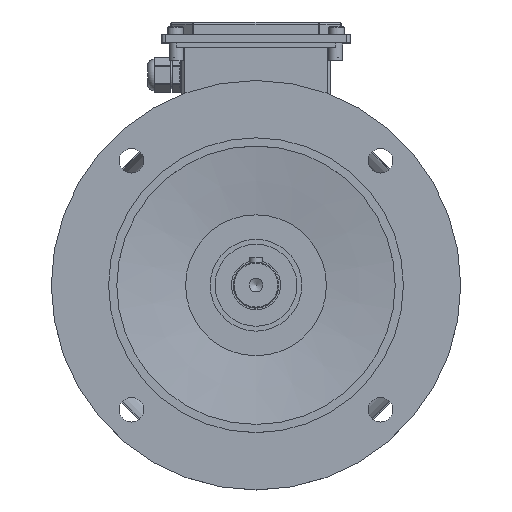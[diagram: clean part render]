
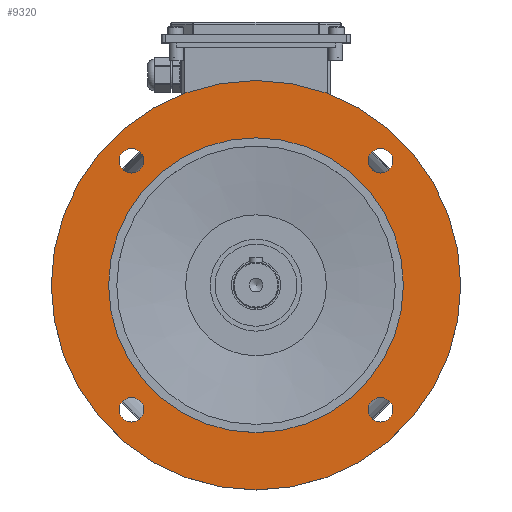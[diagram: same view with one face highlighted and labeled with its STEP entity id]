
A CAD part, top view. The second image highlights one B-rep face of the part: STEP entity #9320.
In plain terms, the highlighted planar face has unit normal (0, 0, 1).
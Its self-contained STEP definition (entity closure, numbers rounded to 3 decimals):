
#1832=FACE_BOUND('',#3121,.T.);
#1833=FACE_BOUND('',#3122,.T.);
#1834=FACE_BOUND('',#3123,.T.);
#1835=FACE_BOUND('',#3124,.T.);
#1836=FACE_BOUND('',#3125,.T.);
#1837=FACE_BOUND('',#3126,.T.);
#3121=EDGE_LOOP('',(#8370));
#3122=EDGE_LOOP('',(#8371));
#3123=EDGE_LOOP('',(#8372));
#3124=EDGE_LOOP('',(#8373));
#3125=EDGE_LOOP('',(#8374));
#3126=EDGE_LOOP('',(#8375));
#3586=CIRCLE('',#10253,7.5);
#3587=CIRCLE('',#10254,7.5);
#3588=CIRCLE('',#10255,7.5);
#3589=CIRCLE('',#10256,7.5);
#3590=CIRCLE('',#10257,90.);
#3591=CIRCLE('',#10258,125.);
#4473=VERTEX_POINT('',#16728);
#4474=VERTEX_POINT('',#16730);
#4475=VERTEX_POINT('',#16732);
#4476=VERTEX_POINT('',#16734);
#4477=VERTEX_POINT('',#16736);
#4478=VERTEX_POINT('',#16738);
#5789=EDGE_CURVE('',#4473,#4473,#3586,.T.);
#5790=EDGE_CURVE('',#4474,#4474,#3587,.T.);
#5791=EDGE_CURVE('',#4475,#4475,#3588,.T.);
#5792=EDGE_CURVE('',#4476,#4476,#3589,.T.);
#5793=EDGE_CURVE('',#4477,#4477,#3590,.T.);
#5794=EDGE_CURVE('',#4478,#4478,#3591,.T.);
#8370=ORIENTED_EDGE('',*,*,#5789,.T.);
#8371=ORIENTED_EDGE('',*,*,#5790,.T.);
#8372=ORIENTED_EDGE('',*,*,#5791,.T.);
#8373=ORIENTED_EDGE('',*,*,#5792,.T.);
#8374=ORIENTED_EDGE('',*,*,#5793,.F.);
#8375=ORIENTED_EDGE('',*,*,#5794,.F.);
#8809=PLANE('',#10252);
#9320=ADVANCED_FACE('',(#1832,#1833,#1834,#1835,#1836,#1837),#8809,.T.);
#10252=AXIS2_PLACEMENT_3D('',#16727,#12862,#12863);
#10253=AXIS2_PLACEMENT_3D('',#16729,#12864,#12865);
#10254=AXIS2_PLACEMENT_3D('',#16731,#12866,#12867);
#10255=AXIS2_PLACEMENT_3D('',#16733,#12868,#12869);
#10256=AXIS2_PLACEMENT_3D('',#16735,#12870,#12871);
#10257=AXIS2_PLACEMENT_3D('',#16737,#12872,#12873);
#10258=AXIS2_PLACEMENT_3D('',#16739,#12874,#12875);
#12862=DIRECTION('center_axis',(0.,0.,1.));
#12863=DIRECTION('ref_axis',(1.,0.,0.));
#12864=DIRECTION('center_axis',(0.,0.,-1.));
#12865=DIRECTION('ref_axis',(0.,1.,0.));
#12866=DIRECTION('center_axis',(0.,0.,-1.));
#12867=DIRECTION('ref_axis',(1.,0.,0.));
#12868=DIRECTION('center_axis',(0.,0.,-1.));
#12869=DIRECTION('ref_axis',(0.,-1.,0.));
#12870=DIRECTION('center_axis',(0.,0.,-1.));
#12871=DIRECTION('ref_axis',(-1.,0.,0.));
#12872=DIRECTION('center_axis',(0.,0.,1.));
#12873=DIRECTION('ref_axis',(-1.,0.,0.));
#12874=DIRECTION('center_axis',(0.,0.,-1.));
#12875=DIRECTION('ref_axis',(0.,1.,0.));
#16727=CARTESIAN_POINT('Origin',(0.,0.,
38.8));
#16728=CARTESIAN_POINT('',(76.014,68.514,38.8));
#16729=CARTESIAN_POINT('Origin',(76.014,76.014,38.8));
#16730=CARTESIAN_POINT('',(68.514,-76.014,38.8));
#16731=CARTESIAN_POINT('Origin',(76.014,-76.014,38.8));
#16732=CARTESIAN_POINT('',(-76.014,-68.514,38.8));
#16733=CARTESIAN_POINT('Origin',(-76.014,-76.014,38.8));
#16734=CARTESIAN_POINT('',(-68.514,76.014,38.8));
#16735=CARTESIAN_POINT('Origin',(-76.014,76.014,38.8));
#16736=CARTESIAN_POINT('',(90.,0.,38.8));
#16737=CARTESIAN_POINT('Origin',(0.,0.,38.8));
#16738=CARTESIAN_POINT('',(125.,0.,38.8));
#16739=CARTESIAN_POINT('Origin',(0.,0.,38.8));
